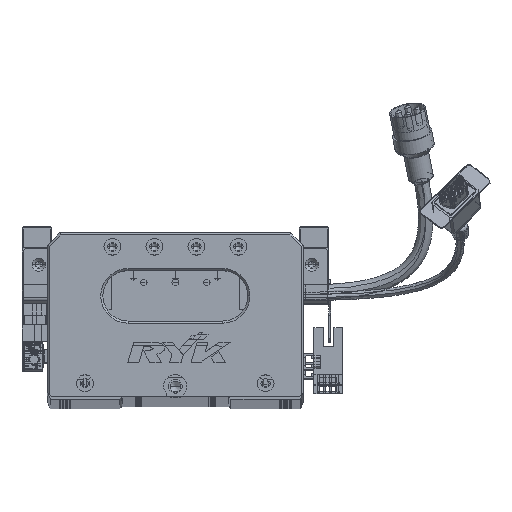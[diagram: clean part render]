
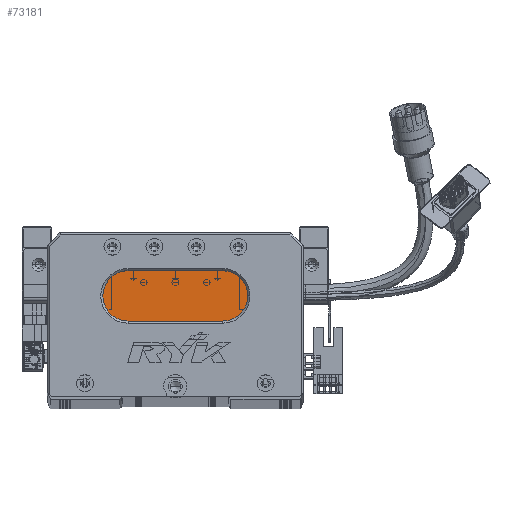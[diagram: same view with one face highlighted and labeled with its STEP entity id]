
A CAD part, top view. The second image highlights one B-rep face of the part: STEP entity #73181.
In plain terms, the highlighted planar face has unit normal (0, 0, 1) as drawn and (0, 0, -1) by its records, which use the part's own axes.
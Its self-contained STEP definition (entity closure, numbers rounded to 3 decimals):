
#1461 = VERTEX_POINT ( 'NONE', #76317 ) ;
#2578 = DIRECTION ( 'NONE',  ( 0., 0., -1. ) ) ;
#4175 = VERTEX_POINT ( 'NONE', #67870 ) ;
#7791 = LINE ( 'NONE', #83069, #30499 ) ;
#8170 = DIRECTION ( 'NONE',  ( 0., 0., -1. ) ) ;
#12255 = LINE ( 'NONE', #72586, #66918 ) ;
#16066 = AXIS2_PLACEMENT_3D ( 'NONE', #67958, #8170, #116286 ) ;
#22470 = DIRECTION ( 'NONE',  ( 0., 0., -1. ) ) ;
#24260 = VERTEX_POINT ( 'NONE', #111394 ) ;
#30499 = VECTOR ( 'NONE', #93210, 1000. ) ;
#32200 = DIRECTION ( 'NONE',  ( -1., 0., 0. ) ) ;
#34385 = ORIENTED_EDGE ( 'NONE', *, *, #61107, .T. ) ;
#35276 = CARTESIAN_POINT ( 'NONE',  ( 26.5, 48., 13. ) ) ;
#43385 = CARTESIAN_POINT ( 'NONE',  ( 38.5, 48., 13. ) ) ;
#48011 = PLANE ( 'NONE',  #16066 ) ;
#53156 = DIRECTION ( 'NONE',  ( -1., 0., 0. ) ) ;
#61107 = EDGE_CURVE ( 'NONE', #65816, #24260, #118629, .T. ) ;
#65816 = VERTEX_POINT ( 'NONE', #35276 ) ;
#66478 = FACE_OUTER_BOUND ( 'NONE', #85224, .T. ) ;
#66918 = VECTOR ( 'NONE', #91618, 1000. ) ;
#67870 = CARTESIAN_POINT ( 'NONE',  ( 83.5, 36., 13. ) ) ;
#67958 = CARTESIAN_POINT ( 'NONE',  ( 83.5, 48., 13. ) ) ;
#70023 = CARTESIAN_POINT ( 'NONE',  ( 83.5, 48., 13. ) ) ;
#72586 = CARTESIAN_POINT ( 'NONE',  ( 83.5, 60., 13. ) ) ;
#73181 = ADVANCED_FACE ( 'NONE', ( #66478 ), #48011, .T. ) ;
#76133 = VERTEX_POINT ( 'NONE', #110489 ) ;
#76317 = CARTESIAN_POINT ( 'NONE',  ( 38.5, 36., 13. ) ) ;
#80556 = CARTESIAN_POINT ( 'NONE',  ( 38.5, 48., 13. ) ) ;
#83069 = CARTESIAN_POINT ( 'NONE',  ( 83.5, 36., 13. ) ) ;
#84201 = ORIENTED_EDGE ( 'NONE', *, *, #120503, .T. ) ;
#84219 = AXIS2_PLACEMENT_3D ( 'NONE', #43385, #111264, #53156 ) ;
#85224 = EDGE_LOOP ( 'NONE', ( #90434, #84201, #90174, #34385, #112626 ) ) ;
#90174 = ORIENTED_EDGE ( 'NONE', *, *, #124164, .T. ) ;
#90434 = ORIENTED_EDGE ( 'NONE', *, *, #116057, .T. ) ;
#90741 = AXIS2_PLACEMENT_3D ( 'NONE', #70023, #2578, #118785 ) ;
#91618 = DIRECTION ( 'NONE',  ( 1., 0., 0. ) ) ;
#93210 = DIRECTION ( 'NONE',  ( -1., 0., 0. ) ) ;
#94158 = EDGE_CURVE ( 'NONE', #24260, #76133, #12255, .T. ) ;
#110489 = CARTESIAN_POINT ( 'NONE',  ( 83.5, 60., 13. ) ) ;
#111264 = DIRECTION ( 'NONE',  ( 0., 0., -1. ) ) ;
#111394 = CARTESIAN_POINT ( 'NONE',  ( 38.5, 60., 13. ) ) ;
#111724 = CIRCLE ( 'NONE', #114922, 12. ) ;
#112626 = ORIENTED_EDGE ( 'NONE', *, *, #94158, .T. ) ;
#114922 = AXIS2_PLACEMENT_3D ( 'NONE', #80556, #22470, #32200 ) ;
#116057 = EDGE_CURVE ( 'NONE', #76133, #4175, #118289, .T. ) ;
#116286 = DIRECTION ( 'NONE',  ( -1., 0., 0. ) ) ;
#118289 = CIRCLE ( 'NONE', #90741, 12. ) ;
#118629 = CIRCLE ( 'NONE', #84219, 12. ) ;
#118785 = DIRECTION ( 'NONE',  ( -1., 0., 0. ) ) ;
#120503 = EDGE_CURVE ( 'NONE', #4175, #1461, #7791, .T. ) ;
#124164 = EDGE_CURVE ( 'NONE', #1461, #65816, #111724, .T. ) ;
